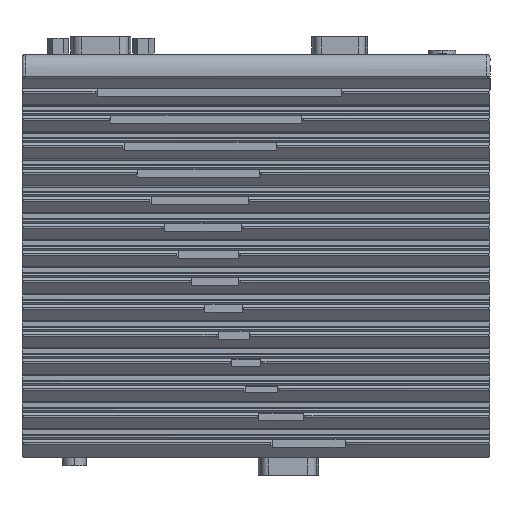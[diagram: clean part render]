
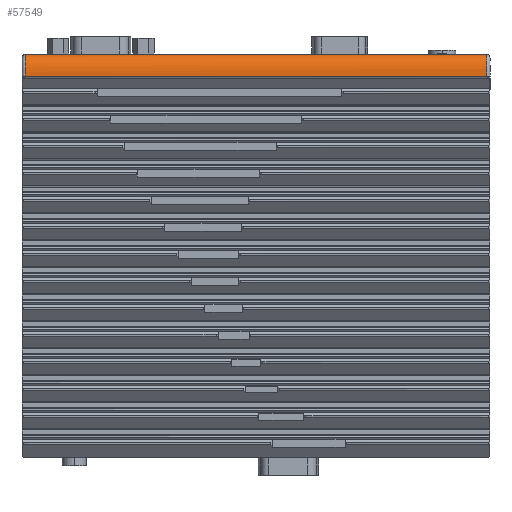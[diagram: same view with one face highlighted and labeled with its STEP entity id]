
A CAD part, front view. The second image highlights one B-rep face of the part: STEP entity #57549.
In plain terms, the highlighted free-form (B-spline) face has degree [3, 1] with [7, 2] control points.
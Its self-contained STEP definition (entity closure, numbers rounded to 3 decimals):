
#561 = CARTESIAN_POINT ( 'NONE',  ( -6., -19.3, -4.459 ) ) ;
#2265 = CARTESIAN_POINT ( 'NONE',  ( -6., -19.3, -4.459 ) ) ;
#2882 = CARTESIAN_POINT ( 'NONE',  ( -6., -19.278, -2.135 ) ) ;
#7785 = VERTEX_POINT ( 'NONE', #80300 ) ;
#8493 = LINE ( 'NONE', #158374, #184839 ) ;
#12689 = VECTOR ( 'NONE', #65143, 1000. ) ;
#13322 = CARTESIAN_POINT ( 'NONE',  ( 129., -18.465, -0.102 ) ) ;
#14329 = CARTESIAN_POINT ( 'NONE',  ( -6., -17.624, 0.991 ) ) ;
#17316 = CARTESIAN_POINT ( 'NONE',  ( -6., -18.499, 0.168 ) ) ;
#18497 = CARTESIAN_POINT ( 'NONE',  ( -6., -15.436, 1.922 ) ) ;
#22112 = CARTESIAN_POINT ( 'NONE',  ( -6., -19.3, -4.459 ) ) ;
#23507 = EDGE_CURVE ( 'NONE', #7785, #39252, #155664, .T. ) ;
#27121 = CARTESIAN_POINT ( 'NONE',  ( 129., -19.3, -4.459 ) ) ;
#27727 = CARTESIAN_POINT ( 'NONE',  ( 129., -17.974, 0.611 ) ) ;
#28790 = CARTESIAN_POINT ( 'NONE',  ( -6., -17.974, 0.611 ) ) ;
#29719 = CARTESIAN_POINT ( 'NONE',  ( 129., -19.3, -4.459 ) ) ;
#31649 = CARTESIAN_POINT ( 'NONE',  ( -6., -17.034, 1.648 ) ) ;
#36434 = CARTESIAN_POINT ( 'NONE',  ( 130.056, -15.436, 1.922 ) ) ;
#39252 = VERTEX_POINT ( 'NONE', #18497 ) ;
#42121 = CARTESIAN_POINT ( 'NONE',  ( 129., -17.624, 0.991 ) ) ;
#43112 = CARTESIAN_POINT ( 'NONE',  ( -6., -18.465, -0.102 ) ) ;
#44219 = DIRECTION ( 'NONE',  ( 1., 0., 0. ) ) ;
#44763 = EDGE_CURVE ( 'NONE', #39252, #90219, #47137, .T. ) ;
#45385 = CARTESIAN_POINT ( 'NONE',  ( 129., -19.3, -4.459 ) ) ;
#46039 = CARTESIAN_POINT ( 'NONE',  ( -6., -15.942, 1.885 ) ) ;
#47137 = B_SPLINE_CURVE_WITH_KNOTS ( 'NONE', 3,
 ( #113624, #56865, #171018, #85548, #185309, #99949, #14329, #114190, #28790, #128494, #43112, #142893, #57482, #157311, #71830, #171625, #86195, #561 ),
 .UNSPECIFIED., .F., .F.,
 ( 4, 2, 2, 2, 2, 2, 2, 2, 4 ),
 ( 0.001, 0.002, 0.003, 0.003, 0.004, 0.005, 0.006, 0.007, 0.009 ),
 .UNSPECIFIED. ) ;
#56440 = CARTESIAN_POINT ( 'NONE',  ( 129., -17.085, 1.434 ) ) ;
#56865 = CARTESIAN_POINT ( 'NONE',  ( -6., -15.783, 1.897 ) ) ;
#57482 = CARTESIAN_POINT ( 'NONE',  ( -6., -18.882, -1.054 ) ) ;
#57508 = EDGE_CURVE ( 'NONE', #90219, #127568, #8493, .T. ) ;
#57549 = ADVANCED_FACE ( 'NONE', ( #66598 ), #81291, .F. ) ;
#60355 = CARTESIAN_POINT ( 'NONE',  ( -6., -15.436, 1.922 ) ) ;
#65143 = DIRECTION ( 'NONE',  ( -1., 0., 0. ) ) ;
#66598 = FACE_OUTER_BOUND ( 'NONE', #68538, .T. ) ;
#68538 = EDGE_LOOP ( 'NONE', ( #88276, #100678, #105000, #74926 ) ) ;
#70188 = CARTESIAN_POINT ( 'NONE',  ( 129., -19.29, -3.081 ) ) ;
#70848 = CARTESIAN_POINT ( 'NONE',  ( 129., -16.123, 1.837 ) ) ;
#71830 = CARTESIAN_POINT ( 'NONE',  ( -6., -19.146, -2.061 ) ) ;
#74926 = ORIENTED_EDGE ( 'NONE', *, *, #162957, .T. ) ;
#80300 = CARTESIAN_POINT ( 'NONE',  ( 129., -15.436, 1.922 ) ) ;
#81291 = B_SPLINE_SURFACE_WITH_KNOTS ( 'NONE', 3, 1, ( 
 ( #2265, #45385 ),
 ( #173897, #88462 ),
 ( #2882, #102774 ),
 ( #17316, #117059 ),
 ( #31649, #131418 ),
 ( #46039, #145766 ),
 ( #60355, #160222 ) ),
 .UNSPECIFIED., .F., .F., .F.,
 ( 4, 1, 1, 1, 4 ),
 ( 2, 2 ),
 ( 0., 0.237, 0.502, 0.767, 0.999 ),
 ( 0., 1. ),
 .UNSPECIFIED. ) ;
#84564 = CARTESIAN_POINT ( 'NONE',  ( 129., -19.075, -1.723 ) ) ;
#85142 = CARTESIAN_POINT ( 'NONE',  ( 129., -15.436, 1.922 ) ) ;
#85548 = CARTESIAN_POINT ( 'NONE',  ( -6., -16.784, 1.604 ) ) ;
#86195 = CARTESIAN_POINT ( 'NONE',  ( -6., -19.297, -3.77 ) ) ;
#88276 = ORIENTED_EDGE ( 'NONE', *, *, #23507, .T. ) ;
#88462 = CARTESIAN_POINT ( 'NONE',  ( 129., -19.297, -3.718 ) ) ;
#90219 = VERTEX_POINT ( 'NONE', #22112 ) ;
#91235 = B_SPLINE_CURVE_WITH_KNOTS ( 'NONE', 3,
 ( #27121, #141246, #70188, #169963, #84564, #184312, #98868, #13322, #113210, #27727, #127439, #42121, #141877, #56440, #156295, #70848, #170577, #85142 ),
 .UNSPECIFIED., .F., .F.,
 ( 4, 2, 2, 2, 2, 2, 2, 2, 4 ),
 ( 0., 0.002, 0.003, 0.004, 0.005, 0.006, 0.006, 0.007, 0.008 ),
 .UNSPECIFIED. ) ;
#98868 = CARTESIAN_POINT ( 'NONE',  ( 129., -18.762, -0.729 ) ) ;
#99949 = CARTESIAN_POINT ( 'NONE',  ( -6., -17.495, 1.109 ) ) ;
#100678 = ORIENTED_EDGE ( 'NONE', *, *, #44763, .T. ) ;
#102774 = CARTESIAN_POINT ( 'NONE',  ( 129., -19.278, -2.135 ) ) ;
#105000 = ORIENTED_EDGE ( 'NONE', *, *, #57508, .T. ) ;
#113210 = CARTESIAN_POINT ( 'NONE',  ( 129., -18.286, 0.2 ) ) ;
#113624 = CARTESIAN_POINT ( 'NONE',  ( -6., -15.436, 1.922 ) ) ;
#114190 = CARTESIAN_POINT ( 'NONE',  ( -6., -17.863, 0.742 ) ) ;
#117059 = CARTESIAN_POINT ( 'NONE',  ( 129., -18.499, 0.168 ) ) ;
#127439 = CARTESIAN_POINT ( 'NONE',  ( 129., -17.863, 0.742 ) ) ;
#127568 = VERTEX_POINT ( 'NONE', #29719 ) ;
#128494 = CARTESIAN_POINT ( 'NONE',  ( -6., -18.286, 0.2 ) ) ;
#131418 = CARTESIAN_POINT ( 'NONE',  ( 129., -17.034, 1.648 ) ) ;
#141246 = CARTESIAN_POINT ( 'NONE',  ( 129., -19.297, -3.77 ) ) ;
#141877 = CARTESIAN_POINT ( 'NONE',  ( 129., -17.495, 1.109 ) ) ;
#142893 = CARTESIAN_POINT ( 'NONE',  ( -6., -18.762, -0.729 ) ) ;
#145766 = CARTESIAN_POINT ( 'NONE',  ( 129., -15.942, 1.885 ) ) ;
#155664 = LINE ( 'NONE', #36434, #12689 ) ;
#156295 = CARTESIAN_POINT ( 'NONE',  ( 129., -16.784, 1.604 ) ) ;
#157311 = CARTESIAN_POINT ( 'NONE',  ( -6., -19.075, -1.723 ) ) ;
#158374 = CARTESIAN_POINT ( 'NONE',  ( 2., -19.3, -4.459 ) ) ;
#160222 = CARTESIAN_POINT ( 'NONE',  ( 129., -15.436, 1.922 ) ) ;
#162957 = EDGE_CURVE ( 'NONE', #127568, #7785, #91235, .T. ) ;
#169963 = CARTESIAN_POINT ( 'NONE',  ( 129., -19.146, -2.061 ) ) ;
#170577 = CARTESIAN_POINT ( 'NONE',  ( 129., -15.783, 1.897 ) ) ;
#171018 = CARTESIAN_POINT ( 'NONE',  ( -6., -16.123, 1.837 ) ) ;
#171625 = CARTESIAN_POINT ( 'NONE',  ( -6., -19.29, -3.081 ) ) ;
#173897 = CARTESIAN_POINT ( 'NONE',  ( -6., -19.297, -3.718 ) ) ;
#184312 = CARTESIAN_POINT ( 'NONE',  ( 129., -18.882, -1.054 ) ) ;
#184839 = VECTOR ( 'NONE', #44219, 1000. ) ;
#185309 = CARTESIAN_POINT ( 'NONE',  ( -6., -17.085, 1.434 ) ) ;
